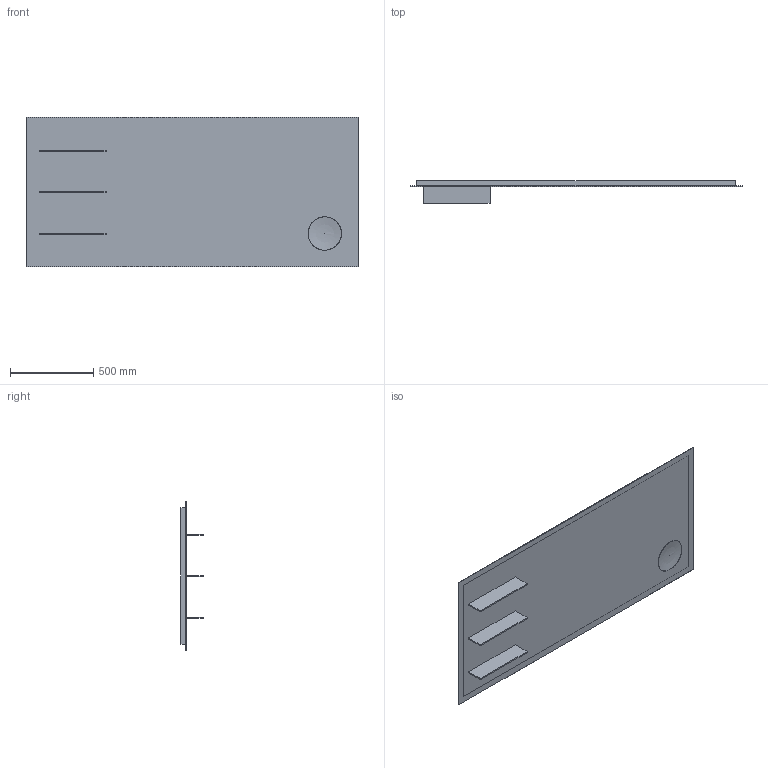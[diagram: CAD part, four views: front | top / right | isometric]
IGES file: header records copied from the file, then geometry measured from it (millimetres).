
Global section: file name: \\Archi-NAS\Comune\X GIOVANNI\SPECCHI\MIRR UV\MIRR UV_LINE.igs; native system: Rhinoceros ( Feb 23 2021 ); preprocessor: Trout Lake IGES 012 Feb 23 2021; date: 230608.081702; units: millimetre
Bounding box: 2000 x 134 x 900 mm (x, y, z)
Surface area: 7221609.5 mm2 (no closed solid volume)
Topology: 0 solids, 0 shells, 36 faces, 153 edges, 146 vertices
Faces by surface type: bspline 36
